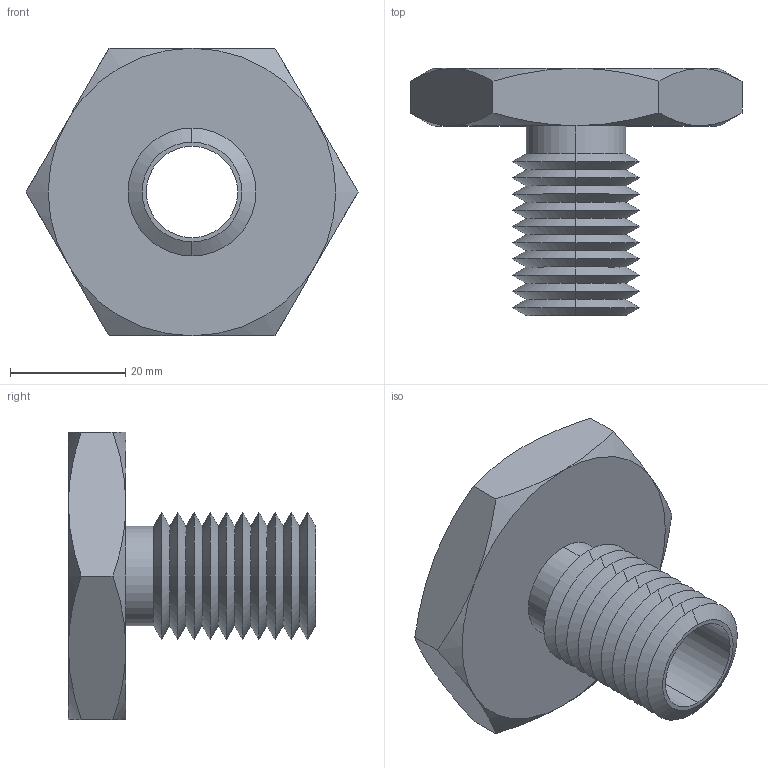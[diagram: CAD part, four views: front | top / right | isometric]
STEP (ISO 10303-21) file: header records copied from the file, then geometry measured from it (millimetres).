
FILE_DESCRIPTION (( 'STEP AP203' ), '1' );
FILE_NAME ('63302.W5088_0,62 UNC-11.step', '2013-12-08T11:38:16', ( 'User' ), ( '' ), 'SwSTEP 2.0', 'SolidWorks 2009', '' );
FILE_SCHEMA (( 'CONFIG_CONTROL_DESIGN' ));
Length unit declared in the file: millimetre
Products named in the file (1): 63302.W5088_0,62 UNC-11
Bounding box: 57.73 x 43 x 50 mm (x, y, z)
Volume: 22567.3 mm3; surface area: 11315.4 mm2
Topology: 1 solids, 1 shells, 67 faces, 138 edges, 74 vertices
Faces by surface type: cone 54, plane 9, cylinder 4
Entity records: 1939 total; most frequent: CARTESIAN_POINT 464, DIRECTION 312, ORIENTED_EDGE 276, EDGE_CURVE 138, AXIS2_PLACEMENT_3D 130, VERTEX_POINT 74, EDGE_LOOP 70, ADVANCED_FACE 67
